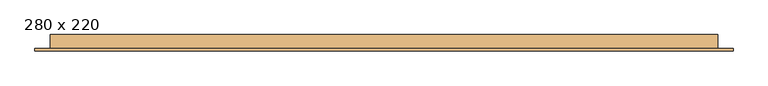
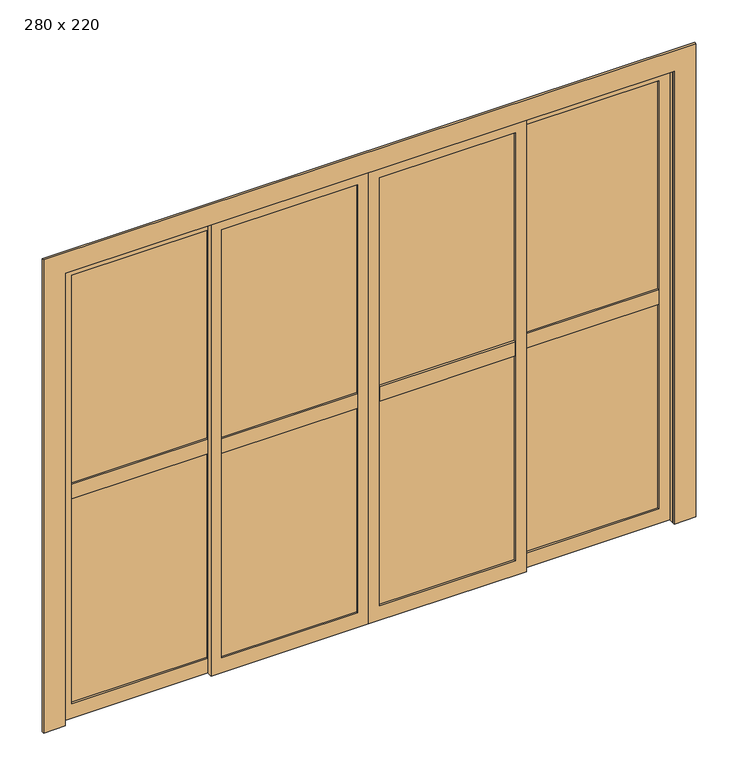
"""IFC4 building model written with IfcOpenShell, lengths in millimetres: door geometry, PORTA DE VIDRO COM ESQUADRIA DE CORRER - 4 FOLHAS : 280 x 220."""

from ifc_helpers import new_model, si_unit, frame, origin, place, context, project, spatial, polyline, outline, extrude, source, transform, mapped, element, save


def door_280_x_220_3c5e79f3(model_context):
    return source(origin(), model_context, "Body", "SweptSolid", [
        extrude(outline(polyline([(870.0, -17.0317069), (1495.0, -17.0317069), (1495.0, -42.0317069), (870.0, -42.0317069), (870.0, -17.0317069)])), frame((0.0, 0.0, 1065.0), z_axis=(0.0, 0.0, 1.0), x_axis=(1.0, 0.0, 0.0)), (0.0, 0.0, 1.0), 70.0),
        extrude(outline(polyline([(1495.0, -26.5317069), (1495.0, -32.5317069), (870.0, -32.5317069), (870.0, -26.5317069), (1495.0, -26.5317069)])), frame((0.0, 0.0, 70.0), z_axis=(0.0, 0.0, 1.0), x_axis=(1.0, 0.0, 0.0)), (0.0, 0.0, 1.0), 2080.0),
        extrude(outline(polyline([(2200.0, 1545.0), (2200.0, 820.0), (0.0, 820.0), (0.0, 1545.0), (2200.0, 1545.0)]), holes=[polyline([(2150.0, 1495.0), (70.0, 1495.0), (70.0, 870.0), (2150.0, 870.0), (2150.0, 1495.0)])]), frame((0.0, -42.0317069, 0.0), z_axis=(0.0, 1.0, 0.0), x_axis=(0.0, 0.0, 1.0)), (0.0, 0.0, 1.0), 25.0),
        extrude(outline(polyline([(-1205.0, -17.0317069), (-580.0, -17.0317069), (-580.0, -42.0317069), (-1205.0, -42.0317069), (-1205.0, -17.0317069)])), frame((0.0, 0.0, 1065.0), z_axis=(0.0, 0.0, 1.0), x_axis=(1.0, 0.0, 0.0)), (0.0, 0.0, 1.0), 70.0),
        extrude(outline(polyline([(-580.0, -26.5317069), (-580.0, -32.5317069), (-1205.0, -32.5317069), (-1205.0, -26.5317069), (-580.0, -26.5317069)])), frame((0.0, 0.0, 70.0), z_axis=(0.0, 0.0, 1.0), x_axis=(1.0, 0.0, 0.0)), (0.0, 0.0, 1.0), 2080.0),
        extrude(outline(polyline([(2200.0, -530.0), (2200.0, -1255.0), (0.0, -1255.0), (0.0, -530.0), (2200.0, -530.0)]), holes=[polyline([(2150.0, -580.0), (70.0, -580.0), (70.0, -1205.0), (2150.0, -1205.0), (2150.0, -580.0)])]), frame((0.0, -42.0317069, 0.0), z_axis=(0.0, 1.0, 0.0), x_axis=(0.0, 0.0, 1.0)), (0.0, 0.0, 1.0), 25.0),
        extrude(outline(polyline([(820.0, -67.0317069), (195.0, -67.0317069), (195.0, -42.0317069), (820.0, -42.0317069), (820.0, -67.0317069)])), frame((0.0, 0.0, 1065.0), z_axis=(0.0, 0.0, 1.0), x_axis=(1.0, 0.0, 0.0)), (0.0, 0.0, 1.0), 70.0),
        extrude(outline(polyline([(195.0, -57.5317069), (195.0, -51.5317069), (820.0, -51.5317069), (820.0, -57.5317069), (195.0, -57.5317069)])), frame((0.0, 0.0, 70.0), z_axis=(0.0, 0.0, 1.0), x_axis=(1.0, 0.0, 0.0)), (0.0, 0.0, 1.0), 2080.0),
        extrude(outline(polyline([(2200.0, 145.0), (0.0, 145.0), (0.0, 870.0), (2200.0, 870.0), (2200.0, 145.0)]), holes=[polyline([(2150.0, 195.0), (2150.0, 820.0), (70.0, 820.0), (70.0, 195.0), (2150.0, 195.0)])]), frame((0.0, -67.0317069, 0.0), z_axis=(0.0, 1.0, 0.0), x_axis=(0.0, 0.0, 1.0)), (0.0, 0.0, 1.0), 25.0),
        extrude(outline(polyline([(-530.0, -42.0317069), (95.0, -42.0317069), (95.0, -67.0317069), (-530.0, -67.0317069), (-530.0, -42.0317069)])), frame((0.0, 0.0, 1065.0), z_axis=(0.0, 0.0, 1.0), x_axis=(1.0, 0.0, 0.0)), (0.0, 0.0, 1.0), 70.0),
        extrude(outline(polyline([(95.0, -51.5317069), (95.0, -57.5317069), (-530.0, -57.5317069), (-530.0, -51.5317069), (95.0, -51.5317069)])), frame((0.0, 0.0, 70.0), z_axis=(0.0, 0.0, 1.0), x_axis=(1.0, 0.0, 0.0)), (0.0, 0.0, 1.0), 2080.0),
        extrude(outline(polyline([(2200.0, 145.0), (2200.0, -580.0), (0.0, -580.0), (0.0, 145.0), (2200.0, 145.0)]), holes=[polyline([(2150.0, 95.0), (70.0, 95.0), (70.0, -530.0), (2150.0, -530.0), (2150.0, 95.0)])]), frame((0.0, -67.0317069, 0.0), z_axis=(0.0, 1.0, 0.0), x_axis=(0.0, 0.0, 1.0)), (0.0, 0.0, 1.0), 25.0),
        extrude(outline(polyline([(2235.0, -1290.0), (0.0, -1290.0), (0.0, -1255.0), (2200.0, -1255.0), (2200.0, 1545.0), (0.0, 1545.0), (0.0, 1580.0), (2235.0, 1580.0), (2235.0, -1290.0)])), frame((0.0, -67.0317069, 0.0), z_axis=(0.0, 1.0, 0.0), x_axis=(0.0, 0.0, 1.0)), (0.0, 0.0, 1.0), 60.0),
        extrude(outline(polyline([(2200.0, -1255.0), (2200.0, 1545.0), (0.0, 1545.0), (0.0, 1645.0), (2300.0, 1645.0), (2300.0, -1355.0), (0.0, -1355.0), (0.0, -1255.0), (2200.0, -1255.0)])), frame((0.0, -77.0317069, 0.0), z_axis=(0.0, 1.0, 0.0), x_axis=(0.0, 0.0, 1.0)), (0.0, 0.0, 1.0), 10.0),
    ])


if __name__ == "__main__":
    model = new_model("IFC4")
    model_context = context("Model", 3, world=origin())
    ifc_project = project(units=[si_unit("LENGTHUNIT", "METRE", prefix="MILLI")], contexts=[model_context])
    site = spatial("IfcSite", under=ifc_project)
    building = spatial("IfcBuilding", under=site)
    placement = place(None, origin())
    door_280_x_220_shape = door_280_x_220_3c5e79f3(model_context)
    element("IfcDoor", 1, ObjectType="PORTA DE VIDRO COM ESQUADRIA DE CORRER - 4 FOLHAS : 280 x 220", at=placement, inside=building, context=model_context, shape_type="MappedRepresentation", body=[
        mapped(door_280_x_220_shape, transform((0.0, 0.0, 0.0), x_axis=(1.0, 0.0, 0.0), y_axis=(0.0, 1.0, 0.0), z_axis=(0.0, 0.0, 1.0))),
    ])
    save(model, "model.ifc")
